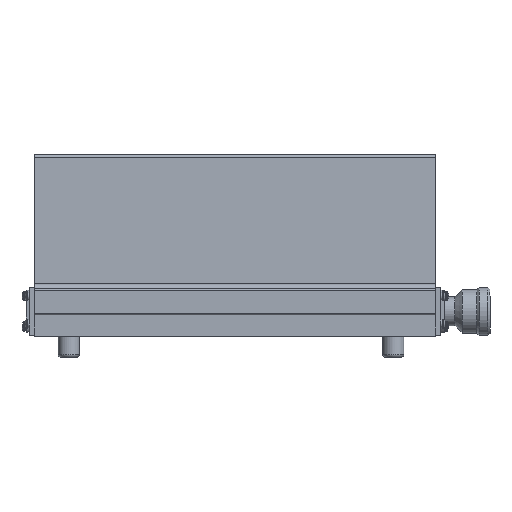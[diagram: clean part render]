
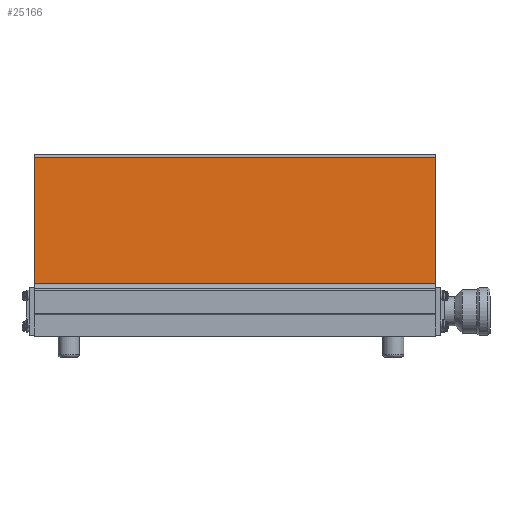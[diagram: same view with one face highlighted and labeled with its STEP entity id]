
A CAD part, left-side view. The second image highlights one B-rep face of the part: STEP entity #25166.
In plain terms, the highlighted planar face has unit normal (-1, 0, 0.028).
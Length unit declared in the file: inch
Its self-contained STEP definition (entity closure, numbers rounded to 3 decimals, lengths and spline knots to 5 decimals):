
#1962=ORIENTED_EDGE('',*,*,#6743,.F.);
#1963=ORIENTED_EDGE('',*,*,#6828,.F.);
#1964=ORIENTED_EDGE('',*,*,#6796,.T.);
#1965=ORIENTED_EDGE('',*,*,#6827,.T.);
#6743=EDGE_CURVE('',#9208,#9209,#10954,.T.);
#6796=EDGE_CURVE('',#9253,#9252,#10988,.T.);
#6827=EDGE_CURVE('',#9252,#9209,#11007,.T.);
#6828=EDGE_CURVE('',#9253,#9208,#11008,.T.);
#9208=VERTEX_POINT('',#34209);
#9209=VERTEX_POINT('',#34211);
#9252=VERTEX_POINT('',#34316);
#9253=VERTEX_POINT('',#34318);
#10954=LINE('',#34210,#12194);
#10988=LINE('',#34317,#12228);
#11007=LINE('',#34377,#12247);
#11008=LINE('',#34379,#12248);
#12194=VECTOR('',#28603,39.37008);
#12228=VECTOR('',#28695,39.37008);
#12247=VECTOR('',#28762,39.37008);
#12248=VECTOR('',#28765,39.37008);
#13428=EDGE_LOOP('',(#1962,#1963,#1964,#1965));
#14946=FACE_BOUND('',#13428,.T.);
#16457=PLANE('',#26392);
#25166=ADVANCED_FACE('',(#14946),#16457,.T.);
#26392=AXIS2_PLACEMENT_3D('',#34378,#28763,#28764);
#28603=DIRECTION('',(-0.028,0.,-1.));
#28695=DIRECTION('',(-0.028,0.,-1.));
#28762=DIRECTION('',(0.,-1.,0.));
#28763=DIRECTION('',(-1.,0.,0.028));
#28764=DIRECTION('',(0.028,0.,1.));
#28765=DIRECTION('',(0.,-1.,0.));
#34209=CARTESIAN_POINT('',(-2.3125,0.,3.3275));
#34210=CARTESIAN_POINT('',(-2.3125,0.,3.3275));
#34211=CARTESIAN_POINT('',(-2.39664,0.,0.34155));
#34316=CARTESIAN_POINT('',(-2.39664,9.5,0.34155));
#34317=CARTESIAN_POINT('',(-2.3125,9.5,3.3275));
#34318=CARTESIAN_POINT('',(-2.3125,9.5,3.3275));
#34377=CARTESIAN_POINT('',(-2.39664,9.5,0.34155));
#34378=CARTESIAN_POINT('',(-2.3125,9.5,3.3275));
#34379=CARTESIAN_POINT('',(-2.3125,9.5,3.3275));
